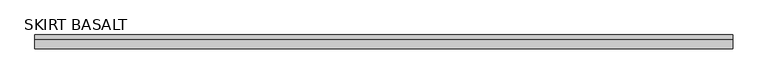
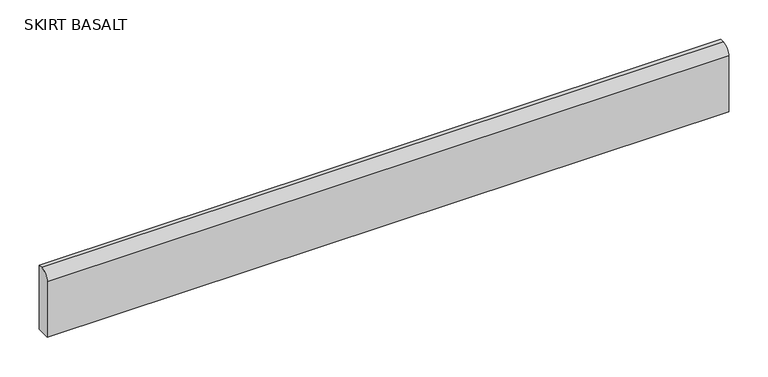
"""IFC4 building model written with IfcOpenShell, lengths in millimetres: proxy geometry, PORTOBELLO - RODAPÉ BLOCKLINE SKIRT BASALT 50X10 EXT BOLD (BASE NA LINHA) : SKIRT BASALT."""

from ifc_helpers import new_model, si_unit, point, frame, frame_2d, origin, place, context, project, spatial, polyline, circle_curve, trimmed, segment, composite_curve, outline, extrude, source, transform, mapped, element, save


def skirt_basalt_be9242f7(model_context):
    return source(origin(), model_context, "Body", "SweptSolid", [
        extrude(outline(composite_curve([segment(polyline([(0.0, 99.9999099), (0.0, 0.0), (-20.0, 0.0), (-20.0, 86.2999099)]), True, "CONTINUOUS"), segment(trimmed(circle_curve(frame_2d((-6.3, 86.2999099)), 13.7), [point((-20.0, 86.2999099))], [point((-6.3, 99.9999099))], False, "CARTESIAN"), True, "CONTINUOUS"), segment(polyline([(-6.3, 99.9999099), (0.0, 99.9999099)]), True, "CONTINUOUS")], self_intersect=False)), frame((0.0, 0.0, 0.0), z_axis=(1.0, 0.0, 0.0), x_axis=(0.0, 1.0, 0.0)), (0.0, 0.0, 1.0), 1000.0),
    ])


if __name__ == "__main__":
    model = new_model("IFC4")
    model_context = context("Model", 3, world=origin())
    ifc_project = project(units=[si_unit("LENGTHUNIT", "METRE", prefix="MILLI")], contexts=[model_context])
    site = spatial("IfcSite", under=ifc_project)
    building = spatial("IfcBuilding", under=site)
    placement = place(None, origin())
    skirt_basalt_shape = skirt_basalt_be9242f7(model_context)
    element("IfcBuildingElementProxy", 1, Name="PORTOBELLO - RODAPÉ BLOCKLINE SKIRT BASALT 50X10 EXT BOLD (BASE NA LINHA) : SKIRT BASALT", ObjectType="PORTOBELLO - RODAPÉ BLOCKLINE SKIRT BASALT 50X10 EXT BOLD (BASE NA LINHA) : SKIRT BASALT", at=placement, inside=building, context=model_context, shape_type="MappedRepresentation", body=[
        mapped(skirt_basalt_shape, transform((0.0, 0.0, 0.0), x_axis=(1.0, 0.0, 0.0), y_axis=(0.0, 1.0, 0.0), z_axis=(0.0, 0.0, 1.0))),
    ])
    save(model, "model.ifc")
